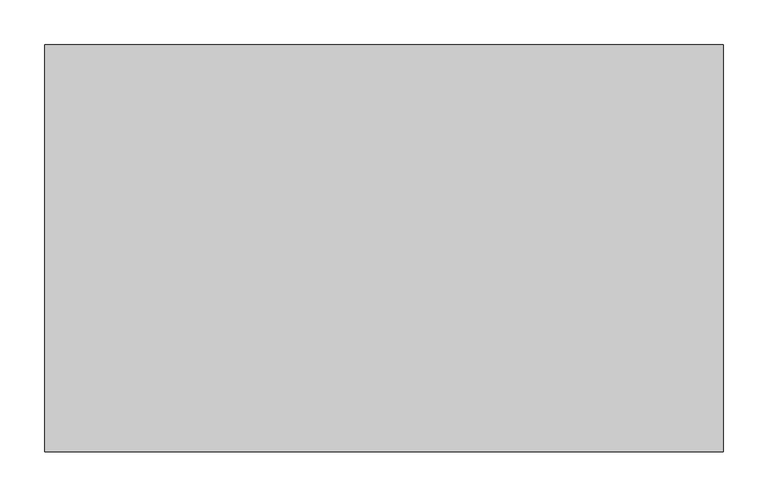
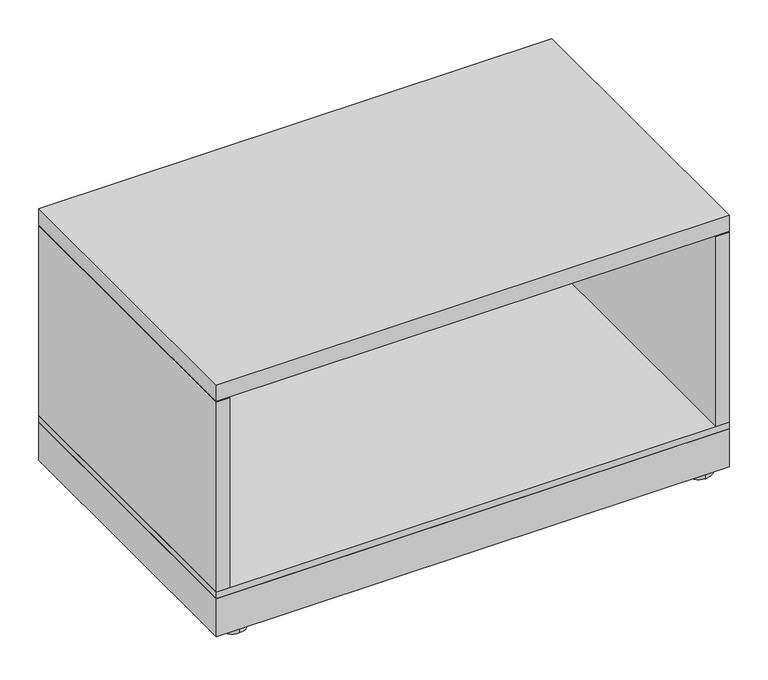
"""IFC4 building model written with IfcOpenShell, lengths in millimetres: furniture geometry, Steelcase - Universal Storage - Lateral File - 1 High - Flush Steel : Open - 18D x 30W."""

import ifcopenshell
import ifcopenshell.guid

model = None  # the IFC model being written
_history = None  # IfcOwnerHistory: only IFC2X3 demands one
_inside = {}  # id of a spatial element -> (the spatial element, [elements in it])
_under = {}  # id of a project, library or spatial element -> (it, [spatial elements below it])
_declared = {}  # id of a project -> (the project, [libraries it declares])
_typed = {}  # id of a type object -> (the type object, [elements of that type])
_made_of = {}  # id of a material, layer set ... -> (it, [elements and type objects made of it])


def new_model(schema):
    """Start an empty IFC model of exactly this schema.

    Asked for "IFC4X3", IfcOpenShell would pick the latest addendum, in which some entities
    have other attributes; the version numbers below select the first issue.
    IFC2X3 requires an IfcOwnerHistory on every rooted entity: one is made here for all.
    """
    global model, _history
    if schema == "IFC4X3":
        model = ifcopenshell.file(schema_version=(4, 3, 0, 0))
    else:
        model = ifcopenshell.file(schema=schema)
    _inside.clear()
    _under.clear()
    _declared.clear()
    _typed.clear()
    _made_of.clear()
    _history = None
    if model.schema == "IFC2X3":
        org = make("IfcOrganization", Name="unknown")
        user = make(
            "IfcPersonAndOrganization",
            ThePerson=make("IfcPerson", FamilyName="unknown"),
            TheOrganization=org,
        )
        app = make(
            "IfcApplication",
            ApplicationDeveloper=org,
            Version="unknown",
            ApplicationFullName="unknown",
            ApplicationIdentifier="unknown",
        )
        _history = make(
            "IfcOwnerHistory",
            OwningUser=user,
            OwningApplication=app,
            ChangeAction="ADDED",
            CreationDate=0,
        )
    return model


def make(cls, **values):
    """One entity of the class cls with the attributes given. An attribute that is None is left unset."""
    return model.create_entity(
        cls, **{name: value for name, value in values.items() if value is not None}
    )


def rooted(cls, **values):
    """An entity with a GlobalId (a new one), such as an element, a storey or a relation."""
    return make(cls, GlobalId=ifcopenshell.guid.new(), OwnerHistory=_history, **values)


def si_unit(unit_type, name, prefix=None):
    """IfcSIUnit, for example si_unit("LENGTHUNIT", "METRE", prefix="MILLI")."""
    return make("IfcSIUnit", UnitType=unit_type, Prefix=prefix, Name=name)


def assignment(units):
    """IfcUnitAssignment: the units of a project."""
    return None if units is None else make("IfcUnitAssignment", Units=units)


def point(xyz):
    """IfcCartesianPoint."""
    return None if xyz is None else make("IfcCartesianPoint", Coordinates=xyz)


def direction(xyz):
    """IfcDirection."""
    return None if xyz is None else make("IfcDirection", DirectionRatios=xyz)


def frame(location, z_axis=None, x_axis=None):
    """IfcAxis2Placement3D, a coordinate frame: its origin and axes. An axis left out is left unset."""
    return make(
        "IfcAxis2Placement3D",
        Location=point(location),
        Axis=direction(z_axis),
        RefDirection=direction(x_axis),
    )


def frame_2d(location, x_axis=None):
    """IfcAxis2Placement2D, a coordinate frame in the plane: its origin and x axis."""
    return make(
        "IfcAxis2Placement2D", Location=point(location), RefDirection=direction(x_axis)
    )


def origin():
    """The frame at (0, 0, 0) with its axes left unset."""
    return frame((0.0, 0.0, 0.0))


def origin_with_axes():
    """The frame at (0, 0, 0) with the z axis (0, 0, 1) and the x axis (1, 0, 0) written out."""
    return frame((0.0, 0.0, 0.0), z_axis=(0.0, 0.0, 1.0), x_axis=(1.0, 0.0, 0.0))


def place(relative_to, where):
    """IfcLocalPlacement: puts the frame where relative to a parent placement (None: the world)."""
    return make(
        "IfcLocalPlacement", PlacementRelTo=relative_to, RelativePlacement=where
    )


def context(
    kind, dimensions, precision=None, world=None, true_north=None, identifier=None
):
    """IfcGeometricRepresentationContext, for example the 3D "Model" context."""
    return make(
        "IfcGeometricRepresentationContext",
        ContextIdentifier=identifier,
        ContextType=kind,
        CoordinateSpaceDimension=dimensions,
        Precision=precision,
        WorldCoordinateSystem=world,
        TrueNorth=true_north,
    )


def project(units=None, contexts=None):
    """IfcProject with its units and contexts."""
    return rooted(
        "IfcProject",
        Name="project",
        RepresentationContexts=contexts,
        UnitsInContext=assignment(units),
    )


def spatial(cls, under=None, at=None, **own):
    """A site, building, storey or space (cls), placed at a placement, below another one or the project."""
    s = rooted(cls, ObjectPlacement=at, **own)
    if under is not None:
        _under.setdefault(under.id(), (under, []))[1].append(s)
    return s


def polyline(points):
    """IfcPolyline through the points."""
    return make("IfcPolyline", Points=[point(p) for p in points])


def circle_curve(where, radius):
    """IfcCircle in the frame where."""
    return make("IfcCircle", Position=where, Radius=radius)


def trimmed(basis, trim1, trim2, sense, master):
    """IfcTrimmedCurve: the piece of a basis curve between two trims."""
    return make(
        "IfcTrimmedCurve",
        BasisCurve=basis,
        Trim1=trim1,
        Trim2=trim2,
        SenseAgreement=sense,
        MasterRepresentation=master,
    )


def segment(curve, same_sense, transition):
    """IfcCompositeCurveSegment."""
    return make(
        "IfcCompositeCurveSegment",
        Transition=transition,
        SameSense=same_sense,
        ParentCurve=curve,
    )


def composite_curve(segments, self_intersect=None):
    """IfcCompositeCurve: segments joined end to end."""
    return make("IfcCompositeCurve", Segments=segments, SelfIntersect=self_intersect)


def outline(outer, holes=None, kind="AREA"):
    """IfcArbitraryClosedProfileDef: a profile drawn as a closed curve; with holes, ...WithVoids."""
    if holes is None:
        return make("IfcArbitraryClosedProfileDef", ProfileType=kind, OuterCurve=outer)
    return make(
        "IfcArbitraryProfileDefWithVoids",
        ProfileType=kind,
        OuterCurve=outer,
        InnerCurves=holes,
    )


def extrude(swept, where, along, depth):
    """IfcExtrudedAreaSolid: the profile swept, set in the frame where, extruded along a direction by depth."""
    return make(
        "IfcExtrudedAreaSolid",
        SweptArea=swept,
        Position=where,
        ExtrudedDirection=direction(along),
        Depth=depth,
    )


def shape(context_of_items, identifier, shape_type, items):
    """IfcShapeRepresentation: the items that make up one representation, for example the "Body"."""
    return make(
        "IfcShapeRepresentation",
        ContextOfItems=context_of_items,
        RepresentationIdentifier=identifier,
        RepresentationType=shape_type,
        Items=items,
    )


def source(mapping_origin, context_of_items, identifier, shape_type, items):
    """IfcRepresentationMap: a shape defined once, which mapped items show again and again."""
    return make(
        "IfcRepresentationMap",
        MappingOrigin=mapping_origin,
        MappedRepresentation=shape(context_of_items, identifier, shape_type, items),
    )


def transform(
    local_origin,
    x_axis=None,
    y_axis=None,
    z_axis=None,
    scale=None,
    scale2=None,
    scale3=None,
    uniform=True,
):
    """IfcCartesianTransformationOperator3D, or its non-uniform kind. x_axis, y_axis, z_axis: its Axis1, 2, 3."""
    if uniform:
        return make(
            "IfcCartesianTransformationOperator3D",
            Axis1=direction(x_axis),
            Axis2=direction(y_axis),
            LocalOrigin=point(local_origin),
            Scale=scale,
            Axis3=direction(z_axis),
        )
    return make(
        "IfcCartesianTransformationOperator3DnonUniform",
        Axis1=direction(x_axis),
        Axis2=direction(y_axis),
        LocalOrigin=point(local_origin),
        Scale=scale,
        Axis3=direction(z_axis),
        Scale2=scale2,
        Scale3=scale3,
    )


def mapped(mapping_source, mapping_target):
    """IfcMappedItem: shows the shape of a source again, moved by a transform."""
    return make(
        "IfcMappedItem", MappingSource=mapping_source, MappingTarget=mapping_target
    )


def made_of(thing, what):
    """Note that an element or type object is made of a material, layer set ...; save() writes the relation."""
    if what is not None:
        _made_of.setdefault(what.id(), (what, []))[1].append(thing)
    return thing


def element(
    cls,
    number,
    at=None,
    inside=None,
    cuts=None,
    type_object=None,
    material=None,
    context=None,
    identifier="Body",
    shape_type=None,
    held_by="IfcProductDefinitionShape",
    body=None,
    shapes=None,
    **own,
):
    """One element of the class cls, such as IfcWall. Its Tag is "e" and its number.

    at: its placement. inside: the storey or other place that contains it. cuts: it is an
    opening in that element (IfcRelVoidsElement). A single representation is given by context,
    identifier, shape_type and body (its items); several are given by shapes. held_by: the class
    of the entity that holds the representations. save() writes the other relations.
    """
    e = rooted(cls, Tag="e%d" % number, ObjectPlacement=at, **own)
    if body is not None:
        shapes = [shape(context, identifier, shape_type, body)]
    if shapes is not None:
        e.Representation = make(held_by, Representations=shapes)
    if inside is not None:
        _inside.setdefault(inside.id(), (inside, []))[1].append(e)
    if cuts is not None:
        rooted(
            "IfcRelVoidsElement", RelatingBuildingElement=cuts, RelatedOpeningElement=e
        )
    if type_object is not None:
        _typed.setdefault(type_object.id(), (type_object, []))[1].append(e)
    return made_of(e, material)


def aggregate(whole, parts):
    """IfcRelAggregates: a whole, such as a stair, and the parts it consists of."""
    return rooted("IfcRelAggregates", RelatingObject=whole, RelatedObjects=parts)


def save(model, path):
    """Write the relations noted so far, then the file.

    IfcRelAggregates (storeys below a building ...), IfcRelContainedInSpatialStructure (elements
    in a storey), IfcRelDefinesByType, IfcRelAssociatesMaterial and IfcRelDeclares: one each for
    every whole, place, type object, material and project.
    """
    for whole, parts in _under.values():
        aggregate(whole, parts)
    for where, things in _inside.values():
        rooted(
            "IfcRelContainedInSpatialStructure",
            RelatedElements=things,
            RelatingStructure=where,
        )
    for kind, things in _typed.values():
        rooted("IfcRelDefinesByType", RelatedObjects=things, RelatingType=kind)
    for what, things in _made_of.values():
        rooted("IfcRelAssociatesMaterial", RelatedObjects=things, RelatingMaterial=what)
    for by, libraries in _declared.values():
        rooted("IfcRelDeclares", RelatingContext=by, RelatedDefinitions=libraries)
    model.write(path)


def furniture_ddb18644(model_context):
    return source(origin(), model_context, "Body", "SweptSolid", [
        extrude(outline(polyline([(762.0, 457.2), (762.0, 0.0), (0.0, 0.0), (0.0, 457.2), (762.0, 457.2)])), frame((0.0, 0.0, 6.3500002), z_axis=(0.0, 0.0, 1.0), x_axis=(1.0, 0.0, 0.0)), (0.0, 0.0, 1.0), 59.6899998),
        extrude(outline(composite_curve([segment(trimmed(circle_curve(frame_2d((727.3290058, 434.8633666)), 20.32), [point((727.3290058, 414.5433666))], [point((727.3290058, 455.1833666))], False, "CARTESIAN"), True, "CONTINUOUS"), segment(trimmed(circle_curve(frame_2d((727.3290058, 434.8633666)), 20.32), [point((727.3290058, 455.1833666))], [point((727.3290058, 414.5433666))], False, "CARTESIAN"), True, "CONTINUOUS")], self_intersect=False)), origin_with_axes(), (0.0, 0.0, 1.0), 6.3500002),
        extrude(outline(composite_curve([segment(trimmed(circle_curve(frame_2d((727.3290058, 20.7491455)), 20.32), [point((727.3290058, 0.4291455))], [point((727.3290058, 41.0691455))], False, "CARTESIAN"), True, "CONTINUOUS"), segment(trimmed(circle_curve(frame_2d((727.3290058, 20.7491455)), 20.32), [point((727.3290058, 41.0691455))], [point((727.3290058, 0.4291455))], False, "CARTESIAN"), True, "CONTINUOUS")], self_intersect=False)), origin_with_axes(), (0.0, 0.0, 1.0), 6.3500002),
        extrude(outline(composite_curve([segment(trimmed(circle_curve(frame_2d((34.29, 434.8633666)), 20.32), [point((34.29, 455.1833666))], [point((34.29, 414.5433666))], False, "CARTESIAN"), True, "CONTINUOUS"), segment(trimmed(circle_curve(frame_2d((34.29, 434.8633666)), 20.32), [point((34.29, 414.5433666))], [point((34.29, 455.1833666))], False, "CARTESIAN"), True, "CONTINUOUS")], self_intersect=False)), origin_with_axes(), (0.0, 0.0, 1.0), 6.3500002),
        extrude(outline(composite_curve([segment(trimmed(circle_curve(frame_2d((34.29, 20.7491455)), 20.32), [point((34.29, 41.0691455))], [point((34.29, 0.4291455))], False, "CARTESIAN"), True, "CONTINUOUS"), segment(trimmed(circle_curve(frame_2d((34.29, 20.7491455)), 20.32), [point((34.29, 0.4291455))], [point((34.29, 41.0691455))], False, "CARTESIAN"), True, "CONTINUOUS")], self_intersect=False)), origin_with_axes(), (0.0, 0.0, 1.0), 6.3500002),
        extrude(outline(polyline([(762.0, 0.0), (0.0, 0.0), (0.0, 457.2), (762.0, 457.2), (762.0, 0.0)])), frame((0.0, 0.0, 376.3010136), z_axis=(0.0, 0.0, 1.0), x_axis=(1.0, 0.0, 0.0)), (0.0, 0.0, 1.0), 25.3999758),
        extrude(outline(polyline([(762.0, 0.0), (0.0, 0.0), (0.0, 457.2), (762.0, 457.2), (762.0, 0.0)])), frame((0.0, 0.0, 66.04), z_axis=(0.0, 0.0, 1.0), x_axis=(1.0, 0.0, 0.0)), (0.0, 0.0, 1.0), 10.16),
        extrude(outline(polyline([(0.0, 457.2), (762.0, 457.2), (762.0, 0.0), (742.4419641, 0.0), (742.4419641, 456.438), (19.558, 456.438), (19.558, 0.0), (0.0, 0.0), (0.0, 457.2)])), frame((0.0, 0.0, 76.2), z_axis=(0.0, 0.0, 1.0), x_axis=(1.0, 0.0, 0.0)), (0.0, 0.0, 1.0), 298.577),
    ])


if __name__ == "__main__":
    model = new_model("IFC4")
    model_context = context("Model", 3, world=origin())
    ifc_project = project(units=[si_unit("LENGTHUNIT", "METRE", prefix="MILLI")], contexts=[model_context])
    site = spatial("IfcSite", under=ifc_project)
    building = spatial("IfcBuilding", under=site)
    placement = place(None, origin())
    furniture_shape = furniture_ddb18644(model_context)
    element("IfcFurniture", 1, ObjectType="Steelcase - Universal Storage - Lateral File - 1 High - Flush Steel : Open - 18D x 30W", at=placement, inside=building, context=model_context, shape_type="MappedRepresentation", body=[
        mapped(furniture_shape, transform((0.0, 0.0, 0.0), x_axis=(1.0, 0.0, 0.0), y_axis=(0.0, 1.0, 0.0), z_axis=(0.0, 0.0, 1.0))),
    ])
    save(model, "model.ifc")
